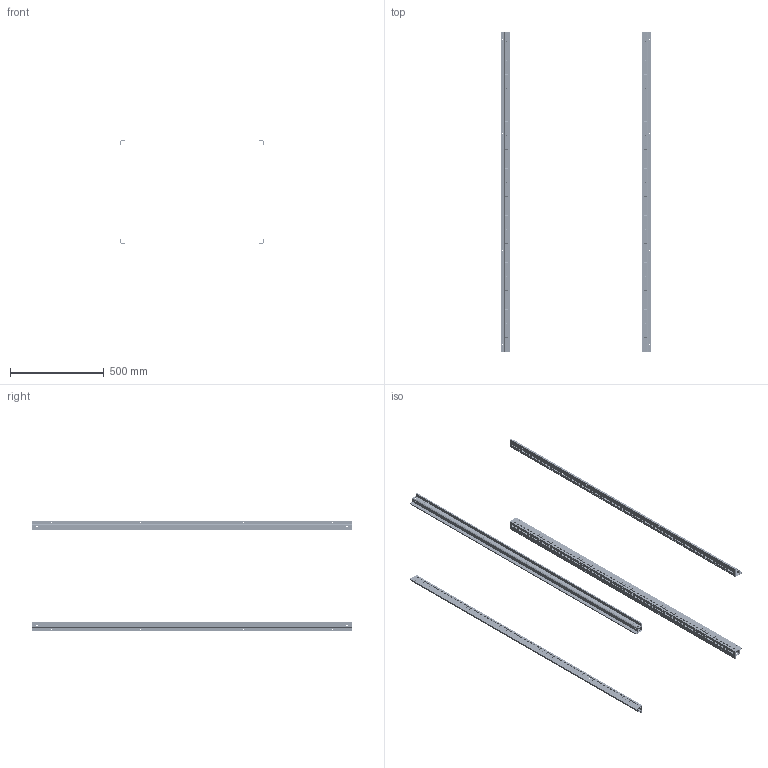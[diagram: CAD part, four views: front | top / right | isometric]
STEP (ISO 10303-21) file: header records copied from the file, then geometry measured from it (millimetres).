
FILE_DESCRIPTION(('Open CASCADE Model'),'2;1');
FILE_NAME('Open CASCADE Shape Model','2025-01-27T17:02:15',('Author'),( 'Open CASCADE'),'Open CASCADE STEP processor 7.8','Open CASCADE 7.8' ,'Unknown');
FILE_SCHEMA(('AUTOMOTIVE_DESIGN { 1 0 10303 214 1 1 1 1 }'));
Length unit declared in the file: millimetre
Products named in the file (2): Compound1; Solid1
Assembly tree (4 placements, depth 2):
  Compound1
    Solid1  x4
Bounding box: 799.4 x 1699 x 585.4 mm (x, y, z)
Volume: 1649441.1 mm3; surface area: 2519849 mm2
Topology: 4 solids, 4 shells, 10772 faces, 31896 edges, 21264 vertices
Faces by surface type: cylinder 6520, plane 4252
Full cylindrical faces by diameter (mm): 4.25 x1080, 7 x32, 10 x16, 11 x32
Entity records: 93076 total; most frequent: DIRECTION 16630, CARTESIAN_POINT 15988, ORIENTED_EDGE 15948, EDGE_CURVE 7974, AXIS2_PLACEMENT_3D 5958, VERTEX_POINT 5316, LINE 4714, VECTOR 4714
